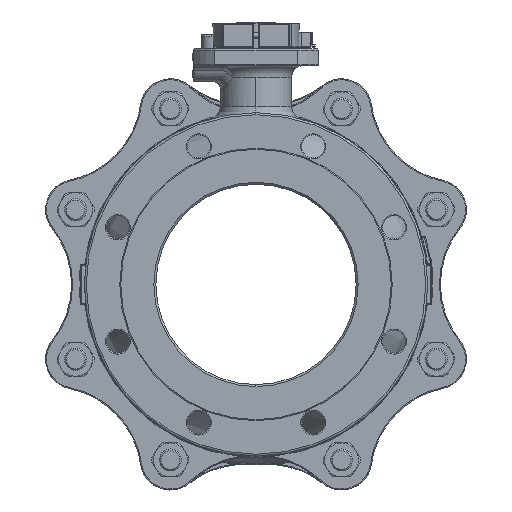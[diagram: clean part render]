
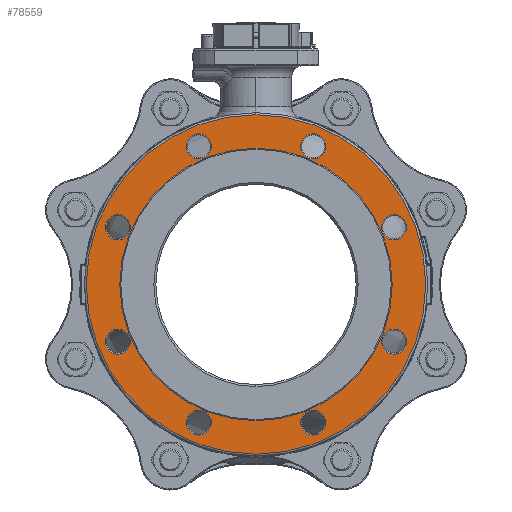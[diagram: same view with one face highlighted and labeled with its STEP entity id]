
A CAD part, left-side view. The second image highlights one B-rep face of the part: STEP entity #78559.
In plain terms, the highlighted planar face has unit normal (-1, 0, 0).
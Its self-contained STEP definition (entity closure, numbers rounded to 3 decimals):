
#13357=CARTESIAN_POINT('',(-220.4,0.,0.));
#13358=DIRECTION('',(-1.,0.,0.));
#13359=DIRECTION('',(0.,0.,1.));
#13360=AXIS2_PLACEMENT_3D('',#13357,#13358,#13359);
#13377=CARTESIAN_POINT('',(-220.4,0.,0.));
#13378=DIRECTION('',(1.,0.,0.));
#13379=DIRECTION('',(0.,0.,-1.));
#13380=AXIS2_PLACEMENT_3D('',#13377,#13378,#13379);
#13400=CARTESIAN_POINT('',(-220.4,0.,0.));
#13401=DIRECTION('',(1.,0.,0.));
#13402=DIRECTION('',(0.,0.,1.));
#13403=AXIS2_PLACEMENT_3D('',#13400,#13401,#13402);
#13474=CARTESIAN_POINT('',(-220.4,-57.116,137.889));
#13475=DIRECTION('',(1.,0.,0.));
#13476=DIRECTION('',(0.,-1.,0.));
#13477=AXIS2_PLACEMENT_3D('',#13474,#13475,#13476);
#13489=CARTESIAN_POINT('',(-220.4,-57.116,137.889));
#13490=DIRECTION('',(1.,0.,0.));
#13491=DIRECTION('',(0.,1.,0.));
#13492=AXIS2_PLACEMENT_3D('',#13489,#13490,#13491);
#13542=CARTESIAN_POINT('',(-220.4,-137.889,57.116));
#13543=DIRECTION('',(1.,0.,0.));
#13544=DIRECTION('',(0.,-1.,0.));
#13545=AXIS2_PLACEMENT_3D('',#13542,#13543,#13544);
#13557=CARTESIAN_POINT('',(-220.4,-137.889,57.116));
#13558=DIRECTION('',(1.,0.,0.));
#13559=DIRECTION('',(0.,1.,0.));
#13560=AXIS2_PLACEMENT_3D('',#13557,#13558,#13559);
#13610=CARTESIAN_POINT('',(-220.4,-137.889,-57.116));
#13611=DIRECTION('',(1.,0.,0.));
#13612=DIRECTION('',(0.,-1.,0.));
#13613=AXIS2_PLACEMENT_3D('',#13610,#13611,#13612);
#13625=CARTESIAN_POINT('',(-220.4,-137.889,-57.116));
#13626=DIRECTION('',(1.,0.,0.));
#13627=DIRECTION('',(0.,1.,0.));
#13628=AXIS2_PLACEMENT_3D('',#13625,#13626,#13627);
#13678=CARTESIAN_POINT('',(-220.4,-57.116,-137.889));
#13679=DIRECTION('',(1.,0.,0.));
#13680=DIRECTION('',(0.,-1.,0.));
#13681=AXIS2_PLACEMENT_3D('',#13678,#13679,#13680);
#13693=CARTESIAN_POINT('',(-220.4,-57.116,-137.889));
#13694=DIRECTION('',(1.,0.,0.));
#13695=DIRECTION('',(0.,1.,0.));
#13696=AXIS2_PLACEMENT_3D('',#13693,#13694,#13695);
#13746=CARTESIAN_POINT('',(-220.4,57.116,-137.889));
#13747=DIRECTION('',(1.,0.,0.));
#13748=DIRECTION('',(0.,-1.,0.));
#13749=AXIS2_PLACEMENT_3D('',#13746,#13747,#13748);
#13761=CARTESIAN_POINT('',(-220.4,57.116,-137.889));
#13762=DIRECTION('',(1.,0.,0.));
#13763=DIRECTION('',(0.,1.,0.));
#13764=AXIS2_PLACEMENT_3D('',#13761,#13762,#13763);
#13814=CARTESIAN_POINT('',(-220.4,137.889,-57.116));
#13815=DIRECTION('',(1.,0.,0.));
#13816=DIRECTION('',(0.,-1.,0.));
#13817=AXIS2_PLACEMENT_3D('',#13814,#13815,#13816);
#13829=CARTESIAN_POINT('',(-220.4,137.889,-57.116));
#13830=DIRECTION('',(1.,0.,0.));
#13831=DIRECTION('',(0.,1.,0.));
#13832=AXIS2_PLACEMENT_3D('',#13829,#13830,#13831);
#13882=CARTESIAN_POINT('',(-220.4,137.889,57.116));
#13883=DIRECTION('',(1.,0.,0.));
#13884=DIRECTION('',(0.,-1.,0.));
#13885=AXIS2_PLACEMENT_3D('',#13882,#13883,#13884);
#13897=CARTESIAN_POINT('',(-220.4,137.889,57.116));
#13898=DIRECTION('',(1.,0.,0.));
#13899=DIRECTION('',(0.,1.,0.));
#13900=AXIS2_PLACEMENT_3D('',#13897,#13898,#13899);
#13950=CARTESIAN_POINT('',(-220.4,57.116,137.889));
#13951=DIRECTION('',(1.,0.,0.));
#13952=DIRECTION('',(0.,-1.,0.));
#13953=AXIS2_PLACEMENT_3D('',#13950,#13951,#13952);
#13965=CARTESIAN_POINT('',(-220.4,57.116,137.889));
#13966=DIRECTION('',(1.,0.,0.));
#13967=DIRECTION('',(0.,1.,0.));
#13968=AXIS2_PLACEMENT_3D('',#13965,#13966,#13967);
#14052=CARTESIAN_POINT('',(-220.4,0.,0.));
#14053=DIRECTION('',(-1.,0.,0.));
#14054=DIRECTION('',(0.,0.,-1.));
#14055=AXIS2_PLACEMENT_3D('',#14052,#14053,#14054);
#51340=CARTESIAN_POINT('',(-220.4,0.,-169.5));
#51341=CARTESIAN_POINT('',(-220.4,0.,169.5));
#51342=VERTEX_POINT('',#51340);
#51343=VERTEX_POINT('',#51341);
#53051=CARTESIAN_POINT('',(-220.4,0.,-136.));
#53052=CARTESIAN_POINT('',(-220.4,0.,136.));
#53053=VERTEX_POINT('',#53051);
#53054=VERTEX_POINT('',#53052);
#54123=CARTESIAN_POINT('',(-220.4,-69.616,137.889));
#54124=CARTESIAN_POINT('',(-220.4,-44.616,137.889));
#54125=VERTEX_POINT('',#54123);
#54126=VERTEX_POINT('',#54124);
#54139=CARTESIAN_POINT('',(-220.4,-150.389,57.116));
#54140=CARTESIAN_POINT('',(-220.4,-125.389,57.116));
#54141=VERTEX_POINT('',#54139);
#54142=VERTEX_POINT('',#54140);
#54155=CARTESIAN_POINT('',(-220.4,-150.389,-57.116));
#54156=CARTESIAN_POINT('',(-220.4,-125.389,-57.116));
#54157=VERTEX_POINT('',#54155);
#54158=VERTEX_POINT('',#54156);
#54171=CARTESIAN_POINT('',(-220.4,-69.616,-137.889));
#54172=CARTESIAN_POINT('',(-220.4,-44.616,-137.889));
#54173=VERTEX_POINT('',#54171);
#54174=VERTEX_POINT('',#54172);
#54187=CARTESIAN_POINT('',(-220.4,44.616,-137.889));
#54188=CARTESIAN_POINT('',(-220.4,69.616,-137.889));
#54189=VERTEX_POINT('',#54187);
#54190=VERTEX_POINT('',#54188);
#54203=CARTESIAN_POINT('',(-220.4,125.389,-57.116));
#54204=CARTESIAN_POINT('',(-220.4,150.389,-57.116));
#54205=VERTEX_POINT('',#54203);
#54206=VERTEX_POINT('',#54204);
#54219=CARTESIAN_POINT('',(-220.4,125.389,57.116));
#54220=CARTESIAN_POINT('',(-220.4,150.389,57.116));
#54221=VERTEX_POINT('',#54219);
#54222=VERTEX_POINT('',#54220);
#54235=CARTESIAN_POINT('',(-220.4,44.616,137.889));
#54236=CARTESIAN_POINT('',(-220.4,69.616,137.889));
#54237=VERTEX_POINT('',#54235);
#54238=VERTEX_POINT('',#54236);
#78495=CARTESIAN_POINT('',(-220.4,0.,0.));
#78496=DIRECTION('',(-1.,0.,0.));
#78497=DIRECTION('',(0.,0.,1.));
#78498=AXIS2_PLACEMENT_3D('',#78495,#78496,#78497);
#78499=PLANE('',#78498);
#78501=ORIENTED_EDGE('',*,*,#78500,.T.);
#78503=ORIENTED_EDGE('',*,*,#78502,.T.);
#78504=EDGE_LOOP('',(#78501,#78503));
#78505=FACE_OUTER_BOUND('',#78504,.F.);
#78507=ORIENTED_EDGE('',*,*,#78506,.F.);
#78509=ORIENTED_EDGE('',*,*,#78508,.F.);
#78510=EDGE_LOOP('',(#78507,#78509));
#78511=FACE_BOUND('',#78510,.F.);
#78513=ORIENTED_EDGE('',*,*,#78512,.F.);
#78515=ORIENTED_EDGE('',*,*,#78514,.F.);
#78516=EDGE_LOOP('',(#78513,#78515));
#78517=FACE_BOUND('',#78516,.F.);
#78519=ORIENTED_EDGE('',*,*,#78518,.F.);
#78521=ORIENTED_EDGE('',*,*,#78520,.F.);
#78522=EDGE_LOOP('',(#78519,#78521));
#78523=FACE_BOUND('',#78522,.F.);
#78525=ORIENTED_EDGE('',*,*,#78524,.F.);
#78527=ORIENTED_EDGE('',*,*,#78526,.F.);
#78528=EDGE_LOOP('',(#78525,#78527));
#78529=FACE_BOUND('',#78528,.F.);
#78531=ORIENTED_EDGE('',*,*,#78530,.F.);
#78533=ORIENTED_EDGE('',*,*,#78532,.F.);
#78534=EDGE_LOOP('',(#78531,#78533));
#78535=FACE_BOUND('',#78534,.F.);
#78537=ORIENTED_EDGE('',*,*,#78536,.F.);
#78539=ORIENTED_EDGE('',*,*,#78538,.F.);
#78540=EDGE_LOOP('',(#78537,#78539));
#78541=FACE_BOUND('',#78540,.F.);
#78543=ORIENTED_EDGE('',*,*,#78542,.F.);
#78545=ORIENTED_EDGE('',*,*,#78544,.F.);
#78546=EDGE_LOOP('',(#78543,#78545));
#78547=FACE_BOUND('',#78546,.F.);
#78549=ORIENTED_EDGE('',*,*,#78548,.F.);
#78551=ORIENTED_EDGE('',*,*,#78550,.F.);
#78552=EDGE_LOOP('',(#78549,#78551));
#78553=FACE_BOUND('',#78552,.F.);
#78555=ORIENTED_EDGE('',*,*,#78554,.T.);
#78556=ORIENTED_EDGE('',*,*,#78485,.T.);
#78557=EDGE_LOOP('',(#78555,#78556));
#78558=FACE_BOUND('',#78557,.F.);
#78559=ADVANCED_FACE('',(#78505,#78511,#78517,#78523,#78529,#78535,#78541,
#78547,#78553,#78558),#78499,.T.);
#13361=CIRCLE('',#13360,136.);
#13381=CIRCLE('',#13380,169.5);
#13404=CIRCLE('',#13403,169.5);
#13478=CIRCLE('',#13477,12.5);
#13493=CIRCLE('',#13492,12.5);
#13546=CIRCLE('',#13545,12.5);
#13561=CIRCLE('',#13560,12.5);
#13614=CIRCLE('',#13613,12.5);
#13629=CIRCLE('',#13628,12.5);
#13682=CIRCLE('',#13681,12.5);
#13697=CIRCLE('',#13696,12.5);
#13750=CIRCLE('',#13749,12.5);
#13765=CIRCLE('',#13764,12.5);
#13818=CIRCLE('',#13817,12.5);
#13833=CIRCLE('',#13832,12.5);
#13886=CIRCLE('',#13885,12.5);
#13901=CIRCLE('',#13900,12.5);
#13954=CIRCLE('',#13953,12.5);
#13969=CIRCLE('',#13968,12.5);
#14056=CIRCLE('',#14055,136.);
#78485=EDGE_CURVE('',#53054,#53053,#13361,.T.);
#78500=EDGE_CURVE('',#51342,#51343,#13381,.T.);
#78502=EDGE_CURVE('',#51343,#51342,#13404,.T.);
#78506=EDGE_CURVE('',#54125,#54126,#13478,.T.);
#78508=EDGE_CURVE('',#54126,#54125,#13493,.T.);
#78512=EDGE_CURVE('',#54141,#54142,#13546,.T.);
#78514=EDGE_CURVE('',#54142,#54141,#13561,.T.);
#78518=EDGE_CURVE('',#54157,#54158,#13614,.T.);
#78520=EDGE_CURVE('',#54158,#54157,#13629,.T.);
#78524=EDGE_CURVE('',#54173,#54174,#13682,.T.);
#78526=EDGE_CURVE('',#54174,#54173,#13697,.T.);
#78530=EDGE_CURVE('',#54189,#54190,#13750,.T.);
#78532=EDGE_CURVE('',#54190,#54189,#13765,.T.);
#78536=EDGE_CURVE('',#54205,#54206,#13818,.T.);
#78538=EDGE_CURVE('',#54206,#54205,#13833,.T.);
#78542=EDGE_CURVE('',#54221,#54222,#13886,.T.);
#78544=EDGE_CURVE('',#54222,#54221,#13901,.T.);
#78548=EDGE_CURVE('',#54237,#54238,#13954,.T.);
#78550=EDGE_CURVE('',#54238,#54237,#13969,.T.);
#78554=EDGE_CURVE('',#53053,#53054,#14056,.T.);
